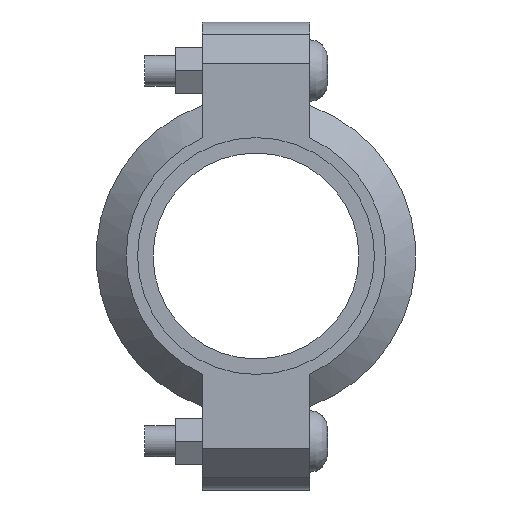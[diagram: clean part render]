
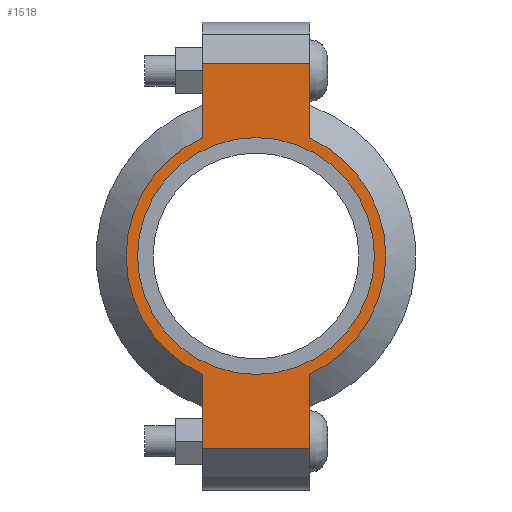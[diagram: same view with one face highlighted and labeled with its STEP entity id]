
A CAD part, left-side view. The second image highlights one B-rep face of the part: STEP entity #1518.
In plain terms, the highlighted planar face has unit normal (-1, 0, 0) as drawn and (0, 0, 1) by its records, which use the part's own axes.
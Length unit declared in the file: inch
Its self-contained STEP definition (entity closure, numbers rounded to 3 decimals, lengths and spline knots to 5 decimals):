
#142=LINE('',#2640,#235);
#150=LINE('',#2676,#243);
#157=LINE('',#2697,#250);
#166=LINE('',#2729,#259);
#167=LINE('',#2733,#260);
#168=LINE('',#2735,#261);
#235=VECTOR('',#2156,0.3937);
#243=VECTOR('',#2172,0.3937);
#250=VECTOR('',#2191,0.3937);
#259=VECTOR('',#2216,0.3937);
#260=VECTOR('',#2221,0.3937);
#261=VECTOR('',#2222,0.3937);
#317=FACE_BOUND('',#495,.T.);
#389=FACE_OUTER_BOUND('',#494,.T.);
#494=EDGE_LOOP('',(#1259,#1260,#1261,#1262,#1263,#1264,#1265,#1266));
#495=EDGE_LOOP('',(#1267));
#567=CIRCLE('',#1728,1.4375);
#593=CIRCLE('',#1787,1.575);
#594=CIRCLE('',#1788,1.575);
#659=VERTEX_POINT('',#2456);
#702=VERTEX_POINT('',#2637);
#703=VERTEX_POINT('',#2639);
#714=VERTEX_POINT('',#2671);
#715=VERTEX_POINT('',#2675);
#722=VERTEX_POINT('',#2694);
#723=VERTEX_POINT('',#2696);
#733=VERTEX_POINT('',#2732);
#734=VERTEX_POINT('',#2734);
#815=EDGE_CURVE('',#659,#659,#567,.T.);
#876=EDGE_CURVE('',#703,#702,#142,.T.);
#890=EDGE_CURVE('',#715,#714,#150,.T.);
#900=EDGE_CURVE('',#723,#722,#157,.T.);
#915=EDGE_CURVE('',#715,#702,#166,.T.);
#916=EDGE_CURVE('',#714,#723,#593,.T.);
#917=EDGE_CURVE('',#733,#722,#167,.T.);
#918=EDGE_CURVE('',#733,#734,#168,.T.);
#919=EDGE_CURVE('',#734,#703,#594,.T.);
#1259=ORIENTED_EDGE('',*,*,#915,.F.);
#1260=ORIENTED_EDGE('',*,*,#890,.T.);
#1261=ORIENTED_EDGE('',*,*,#916,.T.);
#1262=ORIENTED_EDGE('',*,*,#900,.T.);
#1263=ORIENTED_EDGE('',*,*,#917,.F.);
#1264=ORIENTED_EDGE('',*,*,#918,.T.);
#1265=ORIENTED_EDGE('',*,*,#919,.T.);
#1266=ORIENTED_EDGE('',*,*,#876,.T.);
#1267=ORIENTED_EDGE('',*,*,#815,.T.);
#1360=PLANE('',#1786);
#1518=ADVANCED_FACE('',(#389,#317),#1360,.T.);
#1728=AXIS2_PLACEMENT_3D('',#2458,#2032,#2033);
#1786=AXIS2_PLACEMENT_3D('',#2730,#2217,#2218);
#1787=AXIS2_PLACEMENT_3D('',#2731,#2219,#2220);
#1788=AXIS2_PLACEMENT_3D('',#2736,#2223,#2224);
#2032=DIRECTION('center_axis',(0.,0.,-1.));
#2033=DIRECTION('ref_axis',(-1.,0.,0.));
#2156=DIRECTION('',(-1.,0.,0.));
#2172=DIRECTION('',(1.,0.,0.));
#2191=DIRECTION('',(1.,0.,0.));
#2216=DIRECTION('',(0.,1.,0.));
#2217=DIRECTION('center_axis',(0.,0.,1.));
#2218=DIRECTION('ref_axis',(1.,0.,0.));
#2219=DIRECTION('center_axis',(0.,0.,1.));
#2220=DIRECTION('ref_axis',(-1.,0.,0.));
#2221=DIRECTION('',(0.,-1.,0.));
#2222=DIRECTION('',(-1.,0.,0.));
#2223=DIRECTION('center_axis',(0.,0.,1.));
#2224=DIRECTION('ref_axis',(-1.,0.,0.));
#2456=CARTESIAN_POINT('',(1.4375,0.,0.94));
#2458=CARTESIAN_POINT('Origin',(0.,0.,0.94));
#2637=CARTESIAN_POINT('',(-2.34,0.65,0.94));
#2639=CARTESIAN_POINT('',(-1.43462,0.65,0.94));
#2640=CARTESIAN_POINT('',(-2.84,0.65,0.94));
#2671=CARTESIAN_POINT('',(-1.43462,-0.65,0.94));
#2675=CARTESIAN_POINT('',(-2.34,-0.65,0.94));
#2676=CARTESIAN_POINT('',(2.84,-0.65,0.94));
#2694=CARTESIAN_POINT('',(2.34,-0.65,0.94));
#2696=CARTESIAN_POINT('',(1.43462,-0.65,0.94));
#2697=CARTESIAN_POINT('',(2.84,-0.65,0.94));
#2729=CARTESIAN_POINT('',(-2.34,0.325,0.94));
#2730=CARTESIAN_POINT('Origin',(0.,0.,
0.94));
#2731=CARTESIAN_POINT('Origin',(0.,0.,0.94));
#2732=CARTESIAN_POINT('',(2.34,0.65,0.94));
#2733=CARTESIAN_POINT('',(2.34,-0.325,0.94));
#2734=CARTESIAN_POINT('',(1.43462,0.65,0.94));
#2735=CARTESIAN_POINT('',(-2.84,0.65,0.94));
#2736=CARTESIAN_POINT('Origin',(0.,0.,0.94));
